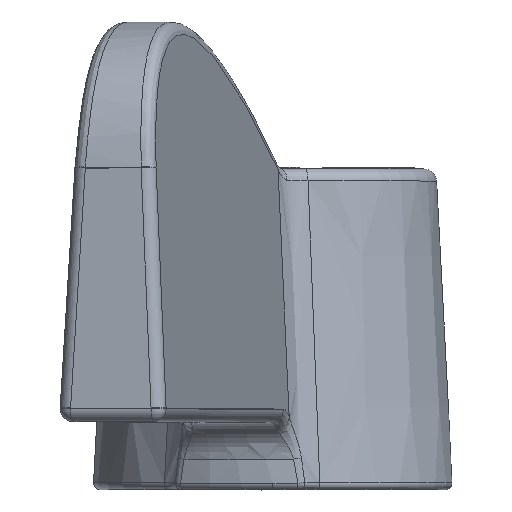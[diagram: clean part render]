
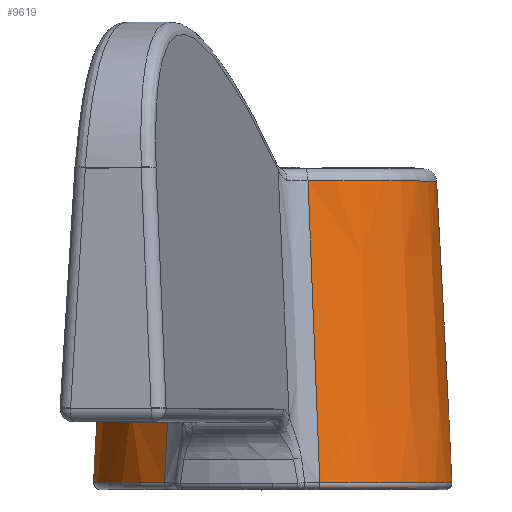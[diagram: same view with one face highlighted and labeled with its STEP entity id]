
A CAD part, top view. The second image highlights one B-rep face of the part: STEP entity #9619.
In plain terms, the highlighted conical face has half-angle 3 degrees and reference radius 13.5 mm.
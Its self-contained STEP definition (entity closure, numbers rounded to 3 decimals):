
#404 = VERTEX_POINT ( 'NONE', #3893 ) ;
#586 = VERTEX_POINT ( 'NONE', #2332 ) ;
#676 = DIRECTION ( 'NONE',  ( 0., 0., 1. ) ) ;
#827 = EDGE_LOOP ( 'NONE', ( #10632, #4194, #4688, #6747 ) ) ;
#1037 = CARTESIAN_POINT ( 'NONE',  ( -8.455, -9.474, 11.154 ) ) ;
#1217 = DIRECTION ( 'NONE',  ( 0., -1., 0. ) ) ;
#2017 = CARTESIAN_POINT ( 'NONE',  ( -7.211, 14.052, 10.531 ) ) ;
#2332 = CARTESIAN_POINT ( 'NONE',  ( -7.211, 14.052, 10.531 ) ) ;
#2349 = CARTESIAN_POINT ( 'NONE',  ( 3.661, -9.474, 13.509 ) ) ;
#2489 = AXIS2_PLACEMENT_3D ( 'NONE', #11622, #6247, #676 ) ;
#2815 = VERTEX_POINT ( 'NONE', #9000 ) ;
#3409 = VERTEX_POINT ( 'NONE', #6472 ) ;
#3893 = CARTESIAN_POINT ( 'NONE',  ( -8.455, -9.474, 11.154 ) ) ;
#3979 = CONICAL_SURFACE ( 'NONE', #5806, 13.5, 0.052 ) ;
#4194 = ORIENTED_EDGE ( 'NONE', *, *, #9785, .T. ) ;
#4688 = ORIENTED_EDGE ( 'NONE', *, *, #9883, .T. ) ;
#5549 = CIRCLE ( 'NONE', #2489, 13.997 ) ;
#5580 = AXIS2_PLACEMENT_3D ( 'NONE', #6759, #1217, #7684 ) ;
#5806 = AXIS2_PLACEMENT_3D ( 'NONE', #11178, #7577, #10296 ) ;
#6023 = CARTESIAN_POINT ( 'NONE',  ( 3.043, 6.21, 12.82 ) ) ;
#6247 = DIRECTION ( 'NONE',  ( 0., 1., 0. ) ) ;
#6472 = CARTESIAN_POINT ( 'NONE',  ( 3.661, -9.474, 13.509 ) ) ;
#6598 = CARTESIAN_POINT ( 'NONE',  ( -8.039, -1.632, 10.954 ) ) ;
#6747 = ORIENTED_EDGE ( 'NONE', *, *, #9943, .T. ) ;
#6759 = CARTESIAN_POINT ( 'NONE',  ( 0., 14.052, 0. ) ) ;
#6939 = CARTESIAN_POINT ( 'NONE',  ( 2.741, 14.052, 12.466 ) ) ;
#6982 = FACE_OUTER_BOUND ( 'NONE', #827, .T. ) ;
#7518 = CARTESIAN_POINT ( 'NONE',  ( -7.624, 6.21, 10.747 ) ) ;
#7577 = DIRECTION ( 'NONE',  ( 0., -1., 0. ) ) ;
#7684 = DIRECTION ( 'NONE',  ( 0., 0., -1. ) ) ;
#7860 = CARTESIAN_POINT ( 'NONE',  ( 3.35, -1.632, 13.168 ) ) ;
#7976 = CIRCLE ( 'NONE', #5580, 12.764 ) ;
#8210 = B_SPLINE_CURVE_WITH_KNOTS ( 'NONE', 3,
 ( #6939, #6023, #7860, #2349 ),
 .UNSPECIFIED., .F., .F.,
 ( 4, 4 ),
 ( 0.001, 0.025 ),
 .UNSPECIFIED. ) ;
#9000 = CARTESIAN_POINT ( 'NONE',  ( 2.741, 14.052, 12.466 ) ) ;
#9619 = ADVANCED_FACE ( 'NONE', ( #6982 ), #3979, .T. ) ;
#9731 = EDGE_CURVE ( 'NONE', #2815, #3409, #8210, .T. ) ;
#9785 = EDGE_CURVE ( 'NONE', #3409, #404, #5549, .T. ) ;
#9883 = EDGE_CURVE ( 'NONE', #404, #586, #11496, .T. ) ;
#9943 = EDGE_CURVE ( 'NONE', #586, #2815, #7976, .T. ) ;
#10296 = DIRECTION ( 'NONE',  ( 0., 0., 1. ) ) ;
#10632 = ORIENTED_EDGE ( 'NONE', *, *, #9731, .T. ) ;
#11178 = CARTESIAN_POINT ( 'NONE',  ( 0., 0., 0. ) ) ;
#11496 = B_SPLINE_CURVE_WITH_KNOTS ( 'NONE', 3,
 ( #1037, #6598, #7518, #2017 ),
 .UNSPECIFIED., .F., .F.,
 ( 4, 4 ),
 ( 0.001, 0.024 ),
 .UNSPECIFIED. ) ;
#11622 = CARTESIAN_POINT ( 'NONE',  ( 0., -9.474, 0. ) ) ;
